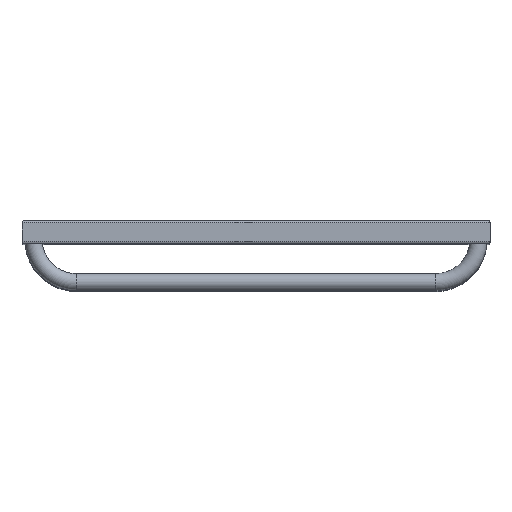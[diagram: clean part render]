
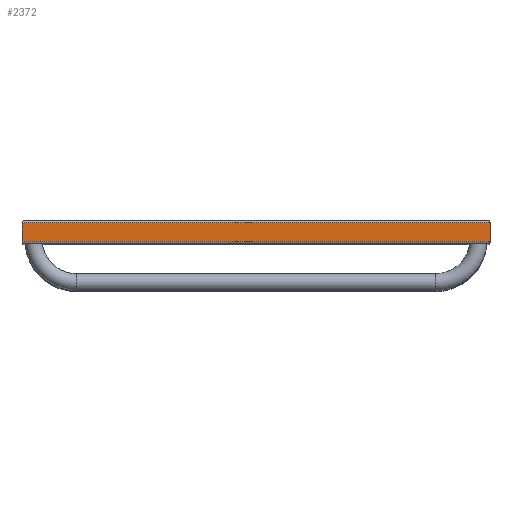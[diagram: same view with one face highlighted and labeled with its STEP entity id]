
A CAD part, top view. The second image highlights one B-rep face of the part: STEP entity #2372.
In plain terms, the highlighted planar face has unit normal (0, 0, 1).
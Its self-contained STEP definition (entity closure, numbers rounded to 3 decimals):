
#243=CARTESIAN_POINT('',(300.,12.,785.0));
#244=VERTEX_POINT('',#243);
#251=CARTESIAN_POINT('',(300.,-12.,785.0));
#252=VERTEX_POINT('',#251);
#253=CARTESIAN_POINT('',(300.,12.,785.0));
#254=DIRECTION('',(0.0,-1.0,0.0));
#255=VECTOR('',#254,24.);
#256=LINE('',#253,#255);
#257=EDGE_CURVE('',#244,#252,#256,.T.);
#2223=CARTESIAN_POINT('',(-300.,12.,785.0));
#2224=VERTEX_POINT('',#2223);
#2225=CARTESIAN_POINT('',(-300.,12.,785.0));
#2226=DIRECTION('',(1.0,0.0,0.0));
#2227=VECTOR('',#2226,600.0);
#2228=LINE('',#2225,#2227);
#2229=EDGE_CURVE('',#2224,#244,#2228,.T.);
#2267=CARTESIAN_POINT('',(-300.,-12.,785.0));
#2268=VERTEX_POINT('',#2267);
#2275=CARTESIAN_POINT('',(-300.,-12.,785.0));
#2276=DIRECTION('',(0.0,1.0,0.0));
#2277=VECTOR('',#2276,24.);
#2278=LINE('',#2275,#2277);
#2279=EDGE_CURVE('',#2268,#2224,#2278,.T.);
#2331=CARTESIAN_POINT('',(300.,-12.,785.0));
#2332=DIRECTION('',(-1.0,0.0,0.0));
#2333=VECTOR('',#2332,600.0);
#2334=LINE('',#2331,#2333);
#2335=EDGE_CURVE('',#252,#2268,#2334,.T.);
#2361=CARTESIAN_POINT('',(285.,0.,785.0));
#2362=DIRECTION('',(0.0,0.0,1.0));
#2363=DIRECTION('',(1.0,0.0,0.0));
#2364=AXIS2_PLACEMENT_3D('',#2361,#2362,#2363);
#2365=PLANE('',#2364);
#2366=ORIENTED_EDGE('',*,*,#2229,.F.);
#2367=ORIENTED_EDGE('',*,*,#2279,.F.);
#2368=ORIENTED_EDGE('',*,*,#2335,.F.);
#2369=ORIENTED_EDGE('',*,*,#257,.F.);
#2370=EDGE_LOOP('',(#2366,#2367,#2368,#2369));
#2371=FACE_OUTER_BOUND('',#2370,.T.);
#2372=ADVANCED_FACE('',(#2371),#2365,.T.);
